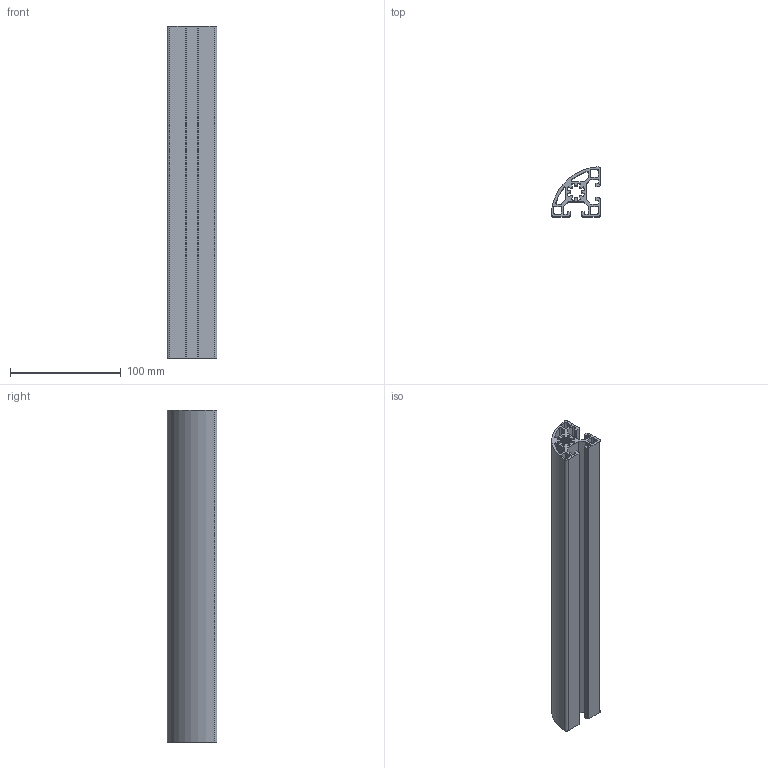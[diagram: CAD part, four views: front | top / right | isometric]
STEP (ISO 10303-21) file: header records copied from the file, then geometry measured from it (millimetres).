
FILE_DESCRIPTION (( 'STEP AP203' ), '1' );
FILE_NAME ('32-CE-4545R-10.STEP', '2015-07-07T03:40:52', ( '' ), ( '' ), 'SwSTEP 2.0', 'SolidWorks 2013', '' );
FILE_SCHEMA (( 'CONFIG_CONTROL_DESIGN' ));
Length unit declared in the file: millimetre
Products named in the file (1): 32-CE-4545R-10
Bounding box: 45 x 45 x 300 mm (x, y, z)
Volume: 188985.7 mm3; surface area: 154087.6 mm2
Topology: 1 solids, 1 shells, 168 faces, 498 edges, 332 vertices
Faces by surface type: cylinder 94, plane 74
Entity records: 5791 total; most frequent: DIRECTION 1024, CARTESIAN_POINT 999, ORIENTED_EDGE 996, EDGE_CURVE 498, AXIS2_PLACEMENT_3D 357, VERTEX_POINT 332, LINE 310, VECTOR 310
